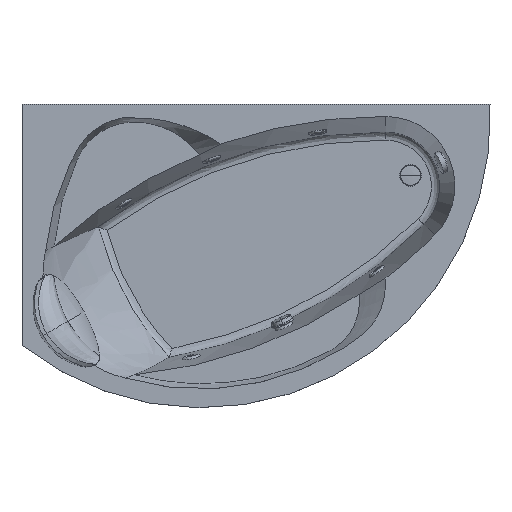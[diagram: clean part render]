
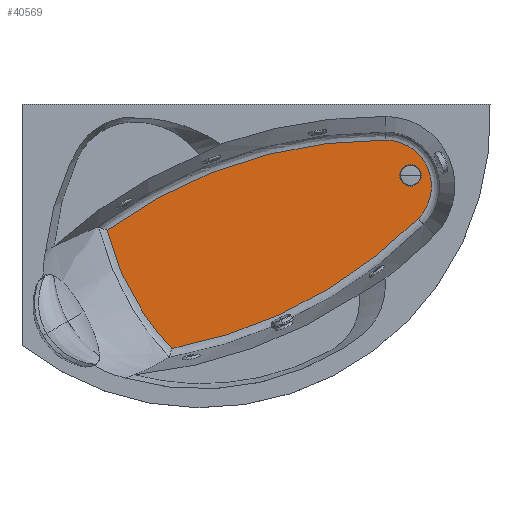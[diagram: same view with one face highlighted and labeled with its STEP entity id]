
A CAD part, top view. The second image highlights one B-rep face of the part: STEP entity #40569.
In plain terms, the highlighted planar face has unit normal (0, 0, 1).
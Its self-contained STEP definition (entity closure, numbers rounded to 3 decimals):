
#39655=CARTESIAN_POINT('',(528.536,-860.498,-403.0));
#39656=VERTEX_POINT('',#39655);
#39669=CARTESIAN_POINT('',(299.971,-443.388,-403.0));
#39670=VERTEX_POINT('',#39669);
#39671=CARTESIAN_POINT('',(299.971,-443.388,-403.0));
#39672=CARTESIAN_POINT('',(303.541,-458.027,-403.0));
#39673=CARTESIAN_POINT('',(315.568,-502.405,-403.0));
#39674=CARTESIAN_POINT('',(342.793,-579.282,-403.0));
#39675=CARTESIAN_POINT('',(383.37,-663.945,-403.0));
#39676=CARTESIAN_POINT('',(427.256,-735.849,-403.0));
#39677=CARTESIAN_POINT('',(463.784,-786.179,-403.0));
#39678=CARTESIAN_POINT('',(493.156,-822.013,-403.0));
#39679=CARTESIAN_POINT('',(513.33,-844.571,-403.));
#39680=CARTESIAN_POINT('',(524.883,-856.724,-403.0));
#39681=CARTESIAN_POINT('',(528.536,-860.498,-403.0));
#39682=B_SPLINE_CURVE_WITH_KNOTS('',3,(#39671,#39672,#39673,#39674,#39675,#39676,#39677,#39678,#39679,#39680,#39681),.UNSPECIFIED.,.F.,.U.,(4,1,1,1,1,1,1,1,4),(19.051,64.256,156.928,263.42,345.451,409.397,449.868,484.412,500.169),.UNSPECIFIED.);
#39683=EDGE_CURVE('',#39670,#39656,#39682,.T.);
#39793=CARTESIAN_POINT('',(1282.265,-125.713,-403.0));
#39794=VERTEX_POINT('',#39793);
#39795=CARTESIAN_POINT('',(1272.231,-1772.215,-403.0));
#39796=DIRECTION('',(0.0,0.0,1.0));
#39797=DIRECTION('',(-0.688,0.726,0.0));
#39798=AXIS2_PLACEMENT_3D('',#39795,#39796,#39797);
#39799=CIRCLE('',#39798,1646.532);
#39800=EDGE_CURVE('',#39794,#39670,#39799,.T.);
#39873=CARTESIAN_POINT('',(1396.356,-402.415,-403.0));
#39874=VERTEX_POINT('',#39873);
#39882=CARTESIAN_POINT('',(228.744,758.512,-403.));
#39883=DIRECTION('',(0.0,0.0,1.));
#39884=DIRECTION('',(0.078,-0.997,0.0));
#39885=AXIS2_PLACEMENT_3D('',#39882,#39883,#39884);
#39886=CIRCLE('',#39885,1646.532);
#39887=EDGE_CURVE('',#39656,#39874,#39886,.T.);
#40171=CARTESIAN_POINT('',(1281.276,-287.993,-403.0));
#40172=DIRECTION('',(0.0,0.0,1.0));
#40173=DIRECTION('',(0.006,1.,0.0));
#40174=AXIS2_PLACEMENT_3D('',#40171,#40172,#40173);
#40175=CIRCLE('',#40174,162.283);
#40176=EDGE_CURVE('',#39874,#39794,#40175,.T.);
#40497=CARTESIAN_POINT('',(1331.809,-250.,-403.0));
#40498=VERTEX_POINT('',#40497);
#40505=CARTESIAN_POINT('',(1408.191,-250.,-403.0));
#40506=VERTEX_POINT('',#40505);
#40507=CARTESIAN_POINT('',(1370.0,-250.0,-403.0));
#40508=DIRECTION('',(0.,0.,1.0));
#40509=DIRECTION('',(1.0,0.,0.0));
#40510=AXIS2_PLACEMENT_3D('',#40507,#40508,#40509);
#40511=CIRCLE('',#40510,38.191);
#40512=EDGE_CURVE('',#40498,#40506,#40511,.T.);
#40542=CARTESIAN_POINT('',(1370.0,-250.0,-403.0));
#40543=DIRECTION('',(0.,0.,1.0));
#40544=DIRECTION('',(1.0,0.,0.0));
#40545=AXIS2_PLACEMENT_3D('',#40542,#40543,#40544);
#40546=CIRCLE('',#40545,38.191);
#40547=EDGE_CURVE('',#40506,#40498,#40546,.T.);
#40554=CARTESIAN_POINT('',(1470.816,-100.749,-403.0));
#40555=DIRECTION('',(0.0,0.0,1.0));
#40556=DIRECTION('',(-1.,0.006,0.0));
#40557=AXIS2_PLACEMENT_3D('',#40554,#40555,#40556);
#40558=PLANE('',#40557);
#40559=ORIENTED_EDGE('',*,*,#40176,.T.);
#40560=ORIENTED_EDGE('',*,*,#39800,.T.);
#40561=ORIENTED_EDGE('',*,*,#39683,.T.);
#40562=ORIENTED_EDGE('',*,*,#39887,.T.);
#40563=EDGE_LOOP('',(#40559,#40560,#40561,#40562));
#40564=FACE_OUTER_BOUND('',#40563,.T.);
#40565=ORIENTED_EDGE('',*,*,#40512,.F.);
#40566=ORIENTED_EDGE('',*,*,#40547,.F.);
#40567=EDGE_LOOP('',(#40565,#40566));
#40568=FACE_BOUND('',#40567,.T.);
#40569=ADVANCED_FACE('',(#40564,#40568),#40558,.T.);
